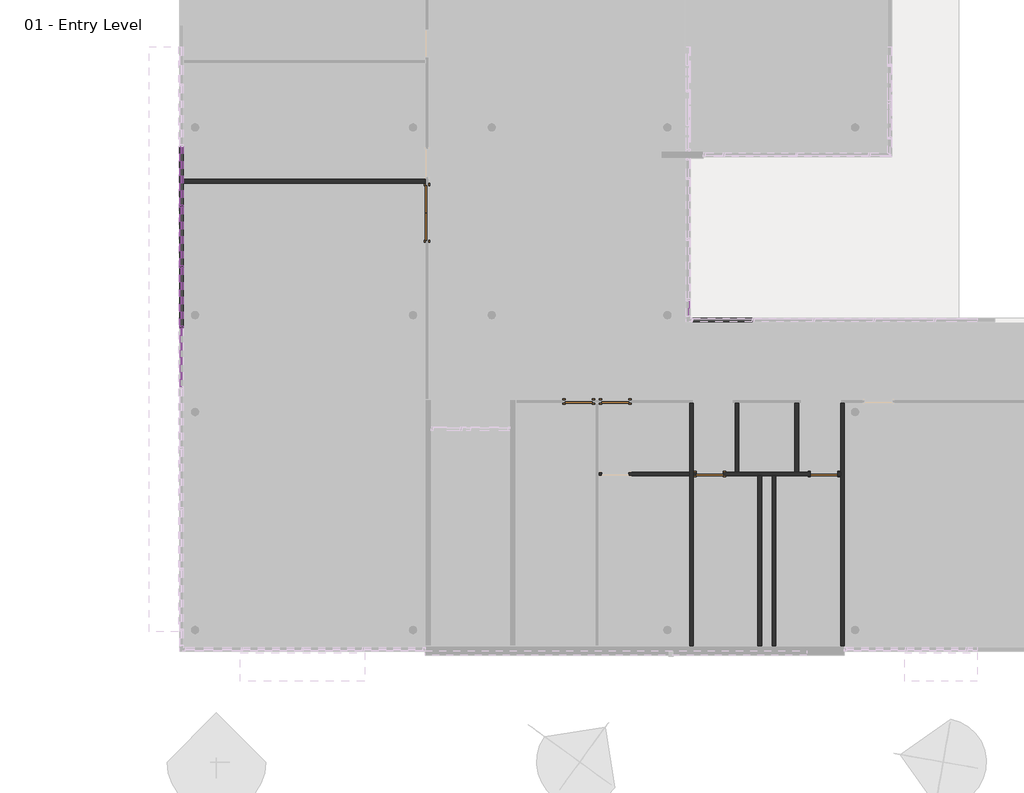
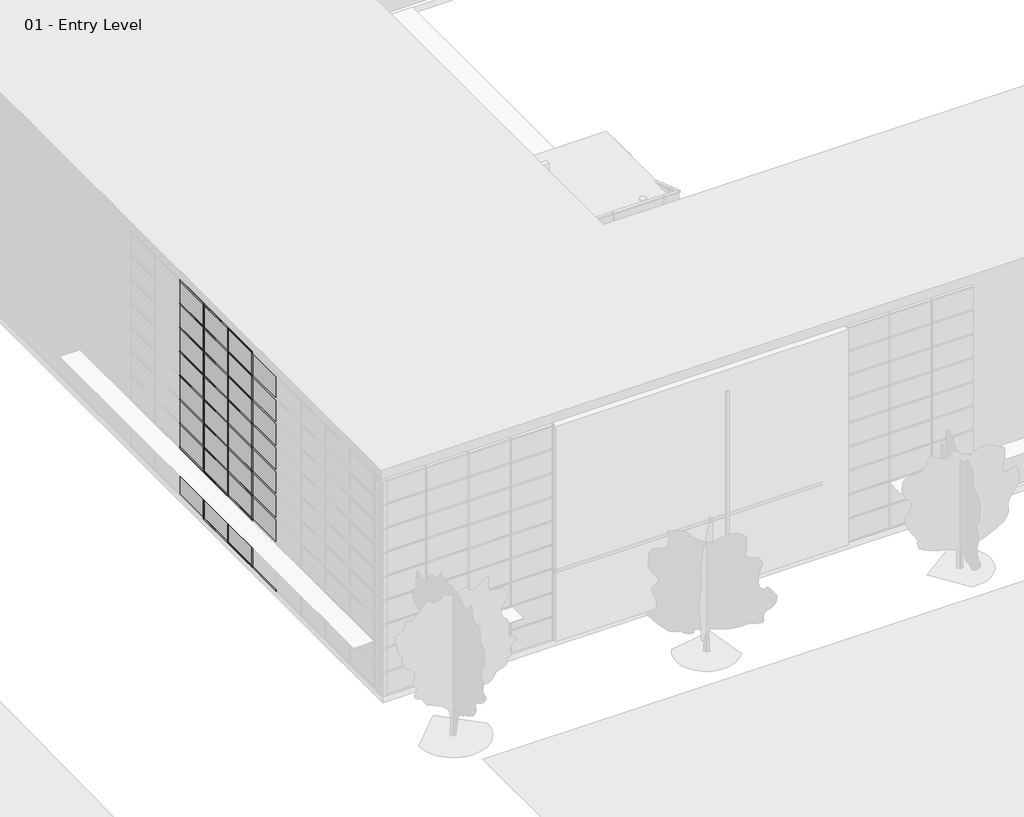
# One storey, part 8 of 34: 63 members, 43 plates, 8 walls, 5 doors.
"""IFC4 building model written with IfcOpenShell, lengths in millimetres."""

from ifc_helpers import new_model, si_unit, origin, origin_with_axes, place, context, project, spatial, polyline, outline, extrude, faceted_brep, transform, mapped, element, save
from components import door_2ec079c3, door_a1797ceb, door_a3eb833a, member_863be36e, member_2b49869a, member_391b434c, member_9e90ae50, member_274b5bb4, member_3d213ca6, member_ba732fc4, system_panel_glazed_1b9d6098, system_panel_glazed_70da479d, system_panel_glazed_4b84483b, system_panel_glazed_9dcaf0c5, system_panel_solid_b376696c, system_panel_solid_77e8b053

model = new_model("IFC4")

# Units and contexts
model_context = context("Model", 3, world=origin())
ifc_project = project(units=[si_unit("LENGTHUNIT", "METRE", prefix="MILLI")], contexts=[model_context])

# Site, building, storey
site = spatial("IfcSite", under=ifc_project)
building = spatial("IfcBuilding", under=site)
storey = spatial("IfcBuildingStorey", under=building, Name="01 - Entry Level", Elevation=0.0)

# Doors
placement = place(None, origin())
door_shape = door_2ec079c3(model_context)
element("IfcDoor", 1, ObjectType="Double-Flush : 72\" x 84\"", at=placement, inside=storey, context=model_context, shape_type="MappedRepresentation", body=[
    mapped(door_shape, transform((8421.0207476, 14595.4, 0.0), x_axis=(0.0, 1.0, 0.0), y_axis=(-1.0, 0.0, 0.0), z_axis=(0.0, 0.0, 1.0))),
])
door_2_shape = door_a1797ceb(model_context)
element("IfcDoor", 2, ObjectType="Single-Flush : 36\" x 84\"", at=placement, inside=storey, context=model_context, shape_type="MappedRepresentation", body=[
    mapped(door_2_shape, transform((14732.9207476, 8270.8, 0.0), x_axis=(-1.0, 0.0, 0.0), y_axis=(0.0, -1.0, 0.0), z_axis=(0.0, 0.0, 1.0))),
])
element("IfcDoor", 3, ObjectType="Single-Flush : 36\" x 84\"", at=placement, inside=storey, context=model_context, shape_type="MappedRepresentation", body=[
    mapped(door_2_shape, transform((17907.9207476, 5832.4, 0.0), x_axis=(-1.0, 0.0, 0.0), y_axis=(0.0, -1.0, 0.0), z_axis=(0.0, 0.0, 1.0))),
])
door_3_shape = door_a3eb833a(model_context)
element("IfcDoor", 4, ObjectType="Single-Flush : 36\" x 84\"", at=placement, inside=storey, context=model_context, shape_type="MappedRepresentation", body=[
    mapped(door_3_shape, transform((13513.7207476, 8270.8, 0.0), x_axis=(1.0, 0.0, 0.0), y_axis=(0.0, 1.0, 0.0), z_axis=(0.0, 0.0, 1.0))),
])
element("IfcDoor", 5, ObjectType="Single-Flush : 36\" x 84\"", at=placement, inside=storey, context=model_context, shape_type="MappedRepresentation", body=[
    mapped(door_3_shape, transform((21743.3207476, 5832.4, 0.0), x_axis=(1.0, 0.0, 0.0), y_axis=(0.0, 1.0, 0.0), z_axis=(0.0, 0.0, 1.0))),
])

# Members
member_shape = member_863be36e(model_context)
element("IfcMember", 6, ObjectType="L Corner Mullion : 5\" x 5\" Corner", at=placement, inside=storey, context=model_context, shape_type="MappedRepresentation", body=[
    mapped(member_shape, transform((17184.0207476, 11001.3, 10972.8), x_axis=(0.0, -1.0, 0.0), y_axis=(1.0, 0.0, 0.0), z_axis=(0.0, 0.0, 1.0))),
])
element("IfcMember", 7, ObjectType="L Corner Mullion : 5\" x 5\" Corner", at=placement, inside=storey, context=model_context, shape_type="MappedRepresentation", body=[
    mapped(member_shape, transform((17184.0207476, 11001.3, 6096.0), x_axis=(-1.0, 0.0, 0.0), y_axis=(0.0, 1.0, 0.0), z_axis=(0.0, 0.0, -1.0))),
])
member_2_shape = member_2b49869a(model_context)
element("IfcMember", 8, ObjectType="Rectangular Mullion : 2.5\" x 5\" rectangular", at=placement, inside=storey, context=model_context, shape_type="MappedRepresentation", body=[
    mapped(member_2_shape, transform((178.7207476, 14824.0, 9753.6), x_axis=(0.0, -1.0, 0.0), y_axis=(-1.0, 0.0, 0.0), z_axis=(0.0, 0.0, -1.0))),
])
element("IfcMember", 9, ObjectType="Rectangular Mullion : 2.5\" x 5\" rectangular", at=placement, inside=storey, context=model_context, shape_type="MappedRepresentation", body=[
    mapped(member_2_shape, transform((178.7207476, 12792.0, 9753.6), x_axis=(0.0, -1.0, 0.0), y_axis=(-1.0, 0.0, 0.0), z_axis=(0.0, 0.0, -1.0))),
])
element("IfcMember", 10, ObjectType="Rectangular Mullion : 2.5\" x 5\" rectangular", at=placement, inside=storey, context=model_context, shape_type="MappedRepresentation", body=[
    mapped(member_2_shape, transform((178.7207476, 10760.0, 9753.6), x_axis=(0.0, -1.0, 0.0), y_axis=(-1.0, 0.0, 0.0), z_axis=(0.0, 0.0, -1.0))),
])
member_3_shape = member_391b434c(model_context)
element("IfcMember", 11, ObjectType="Rectangular Mullion : 2.5\" x 5\" rectangular", at=placement, inside=storey, context=model_context, shape_type="MappedRepresentation", body=[
    mapped(member_3_shape, transform((178.7207476, 14855.75, 10972.8), x_axis=(0.0, 0.0, 1.0), y_axis=(-1.0, 0.0, 0.0), z_axis=(0.0, -1.0, 0.0))),
])
element("IfcMember", 12, ObjectType="Rectangular Mullion : 2.5\" x 5\" rectangular", at=placement, inside=storey, context=model_context, shape_type="MappedRepresentation", body=[
    mapped(member_3_shape, transform((178.7207476, 12823.75, 10972.8), x_axis=(0.0, 0.0, 1.0), y_axis=(-1.0, 0.0, 0.0), z_axis=(0.0, -1.0, 0.0))),
])
element("IfcMember", 13, ObjectType="Rectangular Mullion : 2.5\" x 5\" rectangular", at=placement, inside=storey, context=model_context, shape_type="MappedRepresentation", body=[
    mapped(member_3_shape, transform((178.7207476, 10791.75, 10972.8), x_axis=(0.0, 0.0, 1.0), y_axis=(-1.0, 0.0, 0.0), z_axis=(0.0, -1.0, 0.0))),
])
element("IfcMember", 14, ObjectType="Rectangular Mullion : 2.5\" x 5\" rectangular", at=placement, inside=storey, context=model_context, shape_type="MappedRepresentation", body=[
    mapped(member_3_shape, transform((178.7207476, 14792.25, 0.0), x_axis=(0.0, 0.0, -1.0), y_axis=(-1.0, 0.0, 0.0), z_axis=(0.0, 1.0, 0.0))),
])
element("IfcMember", 15, ObjectType="Rectangular Mullion : 2.5\" x 5\" rectangular", at=placement, inside=storey, context=model_context, shape_type="MappedRepresentation", body=[
    mapped(member_3_shape, transform((178.7207476, 12760.25, 0.0), x_axis=(0.0, 0.0, -1.0), y_axis=(-1.0, 0.0, 0.0), z_axis=(0.0, 1.0, 0.0))),
])
element("IfcMember", 16, ObjectType="Rectangular Mullion : 2.5\" x 5\" rectangular", at=placement, inside=storey, context=model_context, shape_type="MappedRepresentation", body=[
    mapped(member_3_shape, transform((178.7207476, 10728.25, 0.0), x_axis=(0.0, 0.0, -1.0), y_axis=(-1.0, 0.0, 0.0), z_axis=(0.0, 1.0, 0.0))),
])
member_4_shape = member_9e90ae50(model_context)
element("IfcMember", 17, ObjectType="Rectangular Mullion : 2.5\" x 5\" rectangular", at=placement, inside=storey, context=model_context, shape_type="MappedRepresentation", body=[
    mapped(member_4_shape, transform((178.7207476, 14855.75, 1219.2), x_axis=(0.0, 0.0, 1.0), y_axis=(-1.0, 0.0, 0.0), z_axis=(0.0, -1.0, 0.0))),
])
element("IfcMember", 18, ObjectType="Rectangular Mullion : 2.5\" x 5\" rectangular", at=placement, inside=storey, context=model_context, shape_type="MappedRepresentation", body=[
    mapped(member_4_shape, transform((178.7207476, 12823.75, 1219.2), x_axis=(0.0, 0.0, 1.0), y_axis=(-1.0, 0.0, 0.0), z_axis=(0.0, -1.0, 0.0))),
])
element("IfcMember", 19, ObjectType="Rectangular Mullion : 2.5\" x 5\" rectangular", at=placement, inside=storey, context=model_context, shape_type="MappedRepresentation", body=[
    mapped(member_4_shape, transform((178.7207476, 10791.75, 1219.2), x_axis=(0.0, 0.0, 1.0), y_axis=(-1.0, 0.0, 0.0), z_axis=(0.0, -1.0, 0.0))),
])
element("IfcMember", 20, ObjectType="Rectangular Mullion : 2.5\" x 5\" rectangular", at=placement, inside=storey, context=model_context, shape_type="MappedRepresentation", body=[
    mapped(member_4_shape, transform((178.7207476, 14855.75, 2438.4), x_axis=(0.0, 0.0, 1.0), y_axis=(-1.0, 0.0, 0.0), z_axis=(0.0, -1.0, 0.0))),
])
element("IfcMember", 21, ObjectType="Rectangular Mullion : 2.5\" x 5\" rectangular", at=placement, inside=storey, context=model_context, shape_type="MappedRepresentation", body=[
    mapped(member_4_shape, transform((178.7207476, 12823.75, 2438.4), x_axis=(0.0, 0.0, 1.0), y_axis=(-1.0, 0.0, 0.0), z_axis=(0.0, -1.0, 0.0))),
])
element("IfcMember", 22, ObjectType="Rectangular Mullion : 2.5\" x 5\" rectangular", at=placement, inside=storey, context=model_context, shape_type="MappedRepresentation", body=[
    mapped(member_4_shape, transform((178.7207476, 10791.75, 2438.4), x_axis=(0.0, 0.0, 1.0), y_axis=(-1.0, 0.0, 0.0), z_axis=(0.0, -1.0, 0.0))),
])
element("IfcMember", 23, ObjectType="Rectangular Mullion : 2.5\" x 5\" rectangular", at=placement, inside=storey, context=model_context, shape_type="MappedRepresentation", body=[
    mapped(member_4_shape, transform((178.7207476, 14855.75, 3657.6), x_axis=(0.0, 0.0, 1.0), y_axis=(-1.0, 0.0, 0.0), z_axis=(0.0, -1.0, 0.0))),
])
element("IfcMember", 24, ObjectType="Rectangular Mullion : 2.5\" x 5\" rectangular", at=placement, inside=storey, context=model_context, shape_type="MappedRepresentation", body=[
    mapped(member_4_shape, transform((178.7207476, 12823.75, 3657.6), x_axis=(0.0, 0.0, 1.0), y_axis=(-1.0, 0.0, 0.0), z_axis=(0.0, -1.0, 0.0))),
])
element("IfcMember", 25, ObjectType="Rectangular Mullion : 2.5\" x 5\" rectangular", at=placement, inside=storey, context=model_context, shape_type="MappedRepresentation", body=[
    mapped(member_4_shape, transform((178.7207476, 10791.75, 3657.6), x_axis=(0.0, 0.0, 1.0), y_axis=(-1.0, 0.0, 0.0), z_axis=(0.0, -1.0, 0.0))),
])
element("IfcMember", 26, ObjectType="Rectangular Mullion : 2.5\" x 5\" rectangular", at=placement, inside=storey, context=model_context, shape_type="MappedRepresentation", body=[
    mapped(member_4_shape, transform((178.7207476, 14855.75, 4876.8), x_axis=(0.0, 0.0, 1.0), y_axis=(-1.0, 0.0, 0.0), z_axis=(0.0, -1.0, 0.0))),
])
element("IfcMember", 27, ObjectType="Rectangular Mullion : 2.5\" x 5\" rectangular", at=placement, inside=storey, context=model_context, shape_type="MappedRepresentation", body=[
    mapped(member_4_shape, transform((178.7207476, 12823.75, 4876.8), x_axis=(0.0, 0.0, 1.0), y_axis=(-1.0, 0.0, 0.0), z_axis=(0.0, -1.0, 0.0))),
])
element("IfcMember", 28, ObjectType="Rectangular Mullion : 2.5\" x 5\" rectangular", at=placement, inside=storey, context=model_context, shape_type="MappedRepresentation", body=[
    mapped(member_4_shape, transform((178.7207476, 10791.75, 4876.8), x_axis=(0.0, 0.0, 1.0), y_axis=(-1.0, 0.0, 0.0), z_axis=(0.0, -1.0, 0.0))),
])
element("IfcMember", 29, ObjectType="Rectangular Mullion : 2.5\" x 5\" rectangular", at=placement, inside=storey, context=model_context, shape_type="MappedRepresentation", body=[
    mapped(member_4_shape, transform((178.7207476, 14855.75, 6096.0), x_axis=(0.0, 0.0, 1.0), y_axis=(-1.0, 0.0, 0.0), z_axis=(0.0, -1.0, 0.0))),
])
element("IfcMember", 30, ObjectType="Rectangular Mullion : 2.5\" x 5\" rectangular", at=placement, inside=storey, context=model_context, shape_type="MappedRepresentation", body=[
    mapped(member_4_shape, transform((178.7207476, 12823.75, 6096.0), x_axis=(0.0, 0.0, 1.0), y_axis=(-1.0, 0.0, 0.0), z_axis=(0.0, -1.0, 0.0))),
])
element("IfcMember", 31, ObjectType="Rectangular Mullion : 2.5\" x 5\" rectangular", at=placement, inside=storey, context=model_context, shape_type="MappedRepresentation", body=[
    mapped(member_4_shape, transform((178.7207476, 10791.75, 6096.0), x_axis=(0.0, 0.0, 1.0), y_axis=(-1.0, 0.0, 0.0), z_axis=(0.0, -1.0, 0.0))),
])
element("IfcMember", 32, ObjectType="Rectangular Mullion : 2.5\" x 5\" rectangular", at=placement, inside=storey, context=model_context, shape_type="MappedRepresentation", body=[
    mapped(member_4_shape, transform((178.7207476, 14855.75, 7315.2), x_axis=(0.0, 0.0, 1.0), y_axis=(-1.0, 0.0, 0.0), z_axis=(0.0, -1.0, 0.0))),
])
element("IfcMember", 33, ObjectType="Rectangular Mullion : 2.5\" x 5\" rectangular", at=placement, inside=storey, context=model_context, shape_type="MappedRepresentation", body=[
    mapped(member_4_shape, transform((178.7207476, 12823.75, 7315.2), x_axis=(0.0, 0.0, 1.0), y_axis=(-1.0, 0.0, 0.0), z_axis=(0.0, -1.0, 0.0))),
])
element("IfcMember", 34, ObjectType="Rectangular Mullion : 2.5\" x 5\" rectangular", at=placement, inside=storey, context=model_context, shape_type="MappedRepresentation", body=[
    mapped(member_4_shape, transform((178.7207476, 10791.75, 7315.2), x_axis=(0.0, 0.0, 1.0), y_axis=(-1.0, 0.0, 0.0), z_axis=(0.0, -1.0, 0.0))),
])
element("IfcMember", 35, ObjectType="Rectangular Mullion : 2.5\" x 5\" rectangular", at=placement, inside=storey, context=model_context, shape_type="MappedRepresentation", body=[
    mapped(member_4_shape, transform((178.7207476, 14855.75, 8534.4), x_axis=(0.0, 0.0, 1.0), y_axis=(-1.0, 0.0, 0.0), z_axis=(0.0, -1.0, 0.0))),
])
element("IfcMember", 36, ObjectType="Rectangular Mullion : 2.5\" x 5\" rectangular", at=placement, inside=storey, context=model_context, shape_type="MappedRepresentation", body=[
    mapped(member_4_shape, transform((178.7207476, 12823.75, 8534.4), x_axis=(0.0, 0.0, 1.0), y_axis=(-1.0, 0.0, 0.0), z_axis=(0.0, -1.0, 0.0))),
])
element("IfcMember", 37, ObjectType="Rectangular Mullion : 2.5\" x 5\" rectangular", at=placement, inside=storey, context=model_context, shape_type="MappedRepresentation", body=[
    mapped(member_4_shape, transform((178.7207476, 10791.75, 8534.4), x_axis=(0.0, 0.0, 1.0), y_axis=(-1.0, 0.0, 0.0), z_axis=(0.0, -1.0, 0.0))),
])
element("IfcMember", 38, ObjectType="Rectangular Mullion : 2.5\" x 5\" rectangular", at=placement, inside=storey, context=model_context, shape_type="MappedRepresentation", body=[
    mapped(member_4_shape, transform((178.7207476, 14855.75, 9753.6), x_axis=(0.0, 0.0, 1.0), y_axis=(-1.0, 0.0, 0.0), z_axis=(0.0, -1.0, 0.0))),
])
element("IfcMember", 39, ObjectType="Rectangular Mullion : 2.5\" x 5\" rectangular", at=placement, inside=storey, context=model_context, shape_type="MappedRepresentation", body=[
    mapped(member_4_shape, transform((178.7207476, 12823.75, 9753.6), x_axis=(0.0, 0.0, 1.0), y_axis=(-1.0, 0.0, 0.0), z_axis=(0.0, -1.0, 0.0))),
])
element("IfcMember", 40, ObjectType="Rectangular Mullion : 2.5\" x 5\" rectangular", at=placement, inside=storey, context=model_context, shape_type="MappedRepresentation", body=[
    mapped(member_4_shape, transform((178.7207476, 10791.75, 9753.6), x_axis=(0.0, 0.0, 1.0), y_axis=(-1.0, 0.0, 0.0), z_axis=(0.0, -1.0, 0.0))),
])
element("IfcMember", 41, ObjectType="Rectangular Mullion : 2.5\" x 5\" rectangular", at=placement, inside=storey, context=model_context, shape_type="MappedRepresentation", body=[
    mapped(member_2_shape, transform((178.7207476, 14824.0, 0.0), x_axis=(0.0, -1.0, 0.0), y_axis=(-1.0, 0.0, 0.0), z_axis=(0.0, 0.0, -1.0))),
])
element("IfcMember", 42, ObjectType="Rectangular Mullion : 2.5\" x 5\" rectangular", at=placement, inside=storey, context=model_context, shape_type="MappedRepresentation", body=[
    mapped(member_2_shape, transform((178.7207476, 12792.0, 0.0), x_axis=(0.0, -1.0, 0.0), y_axis=(-1.0, 0.0, 0.0), z_axis=(0.0, 0.0, -1.0))),
])
element("IfcMember", 43, ObjectType="Rectangular Mullion : 2.5\" x 5\" rectangular", at=placement, inside=storey, context=model_context, shape_type="MappedRepresentation", body=[
    mapped(member_2_shape, transform((178.7207476, 10760.0, 0.0), x_axis=(0.0, -1.0, 0.0), y_axis=(-1.0, 0.0, 0.0), z_axis=(0.0, 0.0, -1.0))),
])
element("IfcMember", 44, ObjectType="Rectangular Mullion : 2.5\" x 5\" rectangular", at=placement, inside=storey, context=model_context, shape_type="MappedRepresentation", body=[
    mapped(member_2_shape, transform((178.7207476, 14824.0, 1219.2), x_axis=(0.0, -1.0, 0.0), y_axis=(-1.0, 0.0, 0.0), z_axis=(0.0, 0.0, -1.0))),
])
element("IfcMember", 45, ObjectType="Rectangular Mullion : 2.5\" x 5\" rectangular", at=placement, inside=storey, context=model_context, shape_type="MappedRepresentation", body=[
    mapped(member_2_shape, transform((178.7207476, 12792.0, 1219.2), x_axis=(0.0, -1.0, 0.0), y_axis=(-1.0, 0.0, 0.0), z_axis=(0.0, 0.0, -1.0))),
])
element("IfcMember", 46, ObjectType="Rectangular Mullion : 2.5\" x 5\" rectangular", at=placement, inside=storey, context=model_context, shape_type="MappedRepresentation", body=[
    mapped(member_2_shape, transform((178.7207476, 10760.0, 1219.2), x_axis=(0.0, -1.0, 0.0), y_axis=(-1.0, 0.0, 0.0), z_axis=(0.0, 0.0, -1.0))),
])
element("IfcMember", 47, ObjectType="Rectangular Mullion : 2.5\" x 5\" rectangular", at=placement, inside=storey, context=model_context, shape_type="MappedRepresentation", body=[
    mapped(member_2_shape, transform((178.7207476, 14824.0, 2438.4), x_axis=(0.0, -1.0, 0.0), y_axis=(-1.0, 0.0, 0.0), z_axis=(0.0, 0.0, -1.0))),
])
element("IfcMember", 48, ObjectType="Rectangular Mullion : 2.5\" x 5\" rectangular", at=placement, inside=storey, context=model_context, shape_type="MappedRepresentation", body=[
    mapped(member_2_shape, transform((178.7207476, 12792.0, 2438.4), x_axis=(0.0, -1.0, 0.0), y_axis=(-1.0, 0.0, 0.0), z_axis=(0.0, 0.0, -1.0))),
])
element("IfcMember", 49, ObjectType="Rectangular Mullion : 2.5\" x 5\" rectangular", at=placement, inside=storey, context=model_context, shape_type="MappedRepresentation", body=[
    mapped(member_2_shape, transform((178.7207476, 10760.0, 2438.4), x_axis=(0.0, -1.0, 0.0), y_axis=(-1.0, 0.0, 0.0), z_axis=(0.0, 0.0, -1.0))),
])
element("IfcMember", 50, ObjectType="Rectangular Mullion : 2.5\" x 5\" rectangular", at=placement, inside=storey, context=model_context, shape_type="MappedRepresentation", body=[
    mapped(member_2_shape, transform((178.7207476, 14824.0, 3657.6), x_axis=(0.0, -1.0, 0.0), y_axis=(-1.0, 0.0, 0.0), z_axis=(0.0, 0.0, -1.0))),
])
element("IfcMember", 51, ObjectType="Rectangular Mullion : 2.5\" x 5\" rectangular", at=placement, inside=storey, context=model_context, shape_type="MappedRepresentation", body=[
    mapped(member_2_shape, transform((178.7207476, 12792.0, 3657.6), x_axis=(0.0, -1.0, 0.0), y_axis=(-1.0, 0.0, 0.0), z_axis=(0.0, 0.0, -1.0))),
])
element("IfcMember", 52, ObjectType="Rectangular Mullion : 2.5\" x 5\" rectangular", at=placement, inside=storey, context=model_context, shape_type="MappedRepresentation", body=[
    mapped(member_2_shape, transform((178.7207476, 10760.0, 3657.6), x_axis=(0.0, -1.0, 0.0), y_axis=(-1.0, 0.0, 0.0), z_axis=(0.0, 0.0, -1.0))),
])
element("IfcMember", 53, ObjectType="Rectangular Mullion : 2.5\" x 5\" rectangular", at=placement, inside=storey, context=model_context, shape_type="MappedRepresentation", body=[
    mapped(member_2_shape, transform((178.7207476, 14824.0, 4876.8), x_axis=(0.0, -1.0, 0.0), y_axis=(-1.0, 0.0, 0.0), z_axis=(0.0, 0.0, -1.0))),
])
element("IfcMember", 54, ObjectType="Rectangular Mullion : 2.5\" x 5\" rectangular", at=placement, inside=storey, context=model_context, shape_type="MappedRepresentation", body=[
    mapped(member_2_shape, transform((178.7207476, 12792.0, 4876.8), x_axis=(0.0, -1.0, 0.0), y_axis=(-1.0, 0.0, 0.0), z_axis=(0.0, 0.0, -1.0))),
])
element("IfcMember", 55, ObjectType="Rectangular Mullion : 2.5\" x 5\" rectangular", at=placement, inside=storey, context=model_context, shape_type="MappedRepresentation", body=[
    mapped(member_2_shape, transform((178.7207476, 10760.0, 4876.8), x_axis=(0.0, -1.0, 0.0), y_axis=(-1.0, 0.0, 0.0), z_axis=(0.0, 0.0, -1.0))),
])
element("IfcMember", 56, ObjectType="Rectangular Mullion : 2.5\" x 5\" rectangular", at=placement, inside=storey, context=model_context, shape_type="MappedRepresentation", body=[
    mapped(member_2_shape, transform((178.7207476, 14824.0, 6096.0), x_axis=(0.0, -1.0, 0.0), y_axis=(-1.0, 0.0, 0.0), z_axis=(0.0, 0.0, -1.0))),
])
element("IfcMember", 57, ObjectType="Rectangular Mullion : 2.5\" x 5\" rectangular", at=placement, inside=storey, context=model_context, shape_type="MappedRepresentation", body=[
    mapped(member_2_shape, transform((178.7207476, 12792.0, 6096.0), x_axis=(0.0, -1.0, 0.0), y_axis=(-1.0, 0.0, 0.0), z_axis=(0.0, 0.0, -1.0))),
])
element("IfcMember", 58, ObjectType="Rectangular Mullion : 2.5\" x 5\" rectangular", at=placement, inside=storey, context=model_context, shape_type="MappedRepresentation", body=[
    mapped(member_2_shape, transform((178.7207476, 10760.0, 6096.0), x_axis=(0.0, -1.0, 0.0), y_axis=(-1.0, 0.0, 0.0), z_axis=(0.0, 0.0, -1.0))),
])
element("IfcMember", 59, ObjectType="Rectangular Mullion : 2.5\" x 5\" rectangular", at=placement, inside=storey, context=model_context, shape_type="MappedRepresentation", body=[
    mapped(member_2_shape, transform((178.7207476, 14824.0, 7315.2), x_axis=(0.0, -1.0, 0.0), y_axis=(-1.0, 0.0, 0.0), z_axis=(0.0, 0.0, -1.0))),
])
element("IfcMember", 60, ObjectType="Rectangular Mullion : 2.5\" x 5\" rectangular", at=placement, inside=storey, context=model_context, shape_type="MappedRepresentation", body=[
    mapped(member_2_shape, transform((178.7207476, 12792.0, 7315.2), x_axis=(0.0, -1.0, 0.0), y_axis=(-1.0, 0.0, 0.0), z_axis=(0.0, 0.0, -1.0))),
])
element("IfcMember", 61, ObjectType="Rectangular Mullion : 2.5\" x 5\" rectangular", at=placement, inside=storey, context=model_context, shape_type="MappedRepresentation", body=[
    mapped(member_2_shape, transform((178.7207476, 10760.0, 7315.2), x_axis=(0.0, -1.0, 0.0), y_axis=(-1.0, 0.0, 0.0), z_axis=(0.0, 0.0, -1.0))),
])
element("IfcMember", 62, ObjectType="Rectangular Mullion : 2.5\" x 5\" rectangular", at=placement, inside=storey, context=model_context, shape_type="MappedRepresentation", body=[
    mapped(member_2_shape, transform((178.7207476, 14824.0, 8534.4), x_axis=(0.0, -1.0, 0.0), y_axis=(-1.0, 0.0, 0.0), z_axis=(0.0, 0.0, -1.0))),
])
element("IfcMember", 63, ObjectType="Rectangular Mullion : 2.5\" x 5\" rectangular", at=placement, inside=storey, context=model_context, shape_type="MappedRepresentation", body=[
    mapped(member_2_shape, transform((178.7207476, 12792.0, 8534.4), x_axis=(0.0, -1.0, 0.0), y_axis=(-1.0, 0.0, 0.0), z_axis=(0.0, 0.0, -1.0))),
])
element("IfcMember", 64, ObjectType="Rectangular Mullion : 2.5\" x 5\" rectangular", at=placement, inside=storey, context=model_context, shape_type="MappedRepresentation", body=[
    mapped(member_2_shape, transform((178.7207476, 10760.0, 8534.4), x_axis=(0.0, -1.0, 0.0), y_axis=(-1.0, 0.0, 0.0), z_axis=(0.0, 0.0, -1.0))),
])
member_5_shape = member_274b5bb4(model_context)
element("IfcMember", 65, ObjectType="Rectangular Mullion : 2.5\" x 5\" rectangular", at=placement, inside=storey, context=model_context, shape_type="MappedRepresentation", body=[
    mapped(member_5_shape, transform((17184.0207476, 11128.3, 0.0), x_axis=(0.0, 0.0, -1.0), y_axis=(1.0, 0.0, 0.0), z_axis=(0.0, -1.0, 0.0))),
])
member_6_shape = member_3d213ca6(model_context)
element("IfcMember", 66, ObjectType="Rectangular Mullion : 2.5\" x 5\" rectangular", at=placement, inside=storey, context=model_context, shape_type="MappedRepresentation", body=[
    mapped(member_6_shape, transform((17336.4207476, 11001.3, 1219.2), x_axis=(0.0, 0.0, 1.0), y_axis=(0.0, 1.0, 0.0), z_axis=(-1.0, 0.0, 0.0))),
])
element("IfcMember", 67, ObjectType="Rectangular Mullion : 2.5\" x 5\" rectangular", at=placement, inside=storey, context=model_context, shape_type="MappedRepresentation", body=[
    mapped(member_6_shape, transform((17336.4207476, 11001.3, 2438.4), x_axis=(0.0, 0.0, 1.0), y_axis=(0.0, 1.0, 0.0), z_axis=(-1.0, 0.0, 0.0))),
])
member_7_shape = member_ba732fc4(model_context)
element("IfcMember", 68, ObjectType="Rectangular Mullion : 2.5\" x 5\" rectangular", at=placement, inside=storey, context=model_context, shape_type="MappedRepresentation", body=[
    mapped(member_7_shape, transform((17311.0207476, 11001.3, 10972.8), x_axis=(0.0, 0.0, 1.0), y_axis=(0.0, 1.0, 0.0), z_axis=(-1.0, 0.0, 0.0))),
])

# Plates
system_panel_glazed_shape = system_panel_glazed_1b9d6098(model_context)
element("IfcPlate", 69, ObjectType="System Panel : Glazed", at=placement, inside=storey, context=model_context, shape_type="MappedRepresentation", body=[
    mapped(system_panel_glazed_shape, transform((178.7207476, 15840.0, 63.5), x_axis=(0.0, -1.0, 0.0), y_axis=(1.0, 0.0, 0.0), z_axis=(0.0, 0.0, 1.0))),
])
element("IfcPlate", 70, ObjectType="System Panel : Glazed", at=placement, inside=storey, context=model_context, shape_type="MappedRepresentation", body=[
    mapped(system_panel_glazed_shape, transform((178.7207476, 13808.0, 63.5), x_axis=(0.0, -1.0, 0.0), y_axis=(1.0, 0.0, 0.0), z_axis=(0.0, 0.0, 1.0))),
])
element("IfcPlate", 71, ObjectType="System Panel : Glazed", at=placement, inside=storey, context=model_context, shape_type="MappedRepresentation", body=[
    mapped(system_panel_glazed_shape, transform((178.7207476, 11776.0, 63.5), x_axis=(0.0, -1.0, 0.0), y_axis=(1.0, 0.0, 0.0), z_axis=(0.0, 0.0, 1.0))),
])
system_panel_glazed_2_shape = system_panel_glazed_70da479d(model_context)
element("IfcPlate", 72, ObjectType="System Panel : Glazed", at=placement, inside=storey, context=model_context, shape_type="MappedRepresentation", body=[
    mapped(system_panel_glazed_2_shape, transform((178.7207476, 15840.0, 1250.95), x_axis=(0.0, -1.0, 0.0), y_axis=(1.0, 0.0, 0.0), z_axis=(0.0, 0.0, 1.0))),
])
element("IfcPlate", 73, ObjectType="System Panel : Glazed", at=placement, inside=storey, context=model_context, shape_type="MappedRepresentation", body=[
    mapped(system_panel_glazed_2_shape, transform((178.7207476, 13808.0, 1250.95), x_axis=(0.0, -1.0, 0.0), y_axis=(1.0, 0.0, 0.0), z_axis=(0.0, 0.0, 1.0))),
])
element("IfcPlate", 74, ObjectType="System Panel : Glazed", at=placement, inside=storey, context=model_context, shape_type="MappedRepresentation", body=[
    mapped(system_panel_glazed_2_shape, transform((178.7207476, 11776.0, 1250.95), x_axis=(0.0, -1.0, 0.0), y_axis=(1.0, 0.0, 0.0), z_axis=(0.0, 0.0, 1.0))),
])
element("IfcPlate", 75, ObjectType="System Panel : Glazed", at=placement, inside=storey, context=model_context, shape_type="MappedRepresentation", body=[
    mapped(system_panel_glazed_2_shape, transform((178.7207476, 15840.0, 3689.35), x_axis=(0.0, -1.0, 0.0), y_axis=(1.0, 0.0, 0.0), z_axis=(0.0, 0.0, 1.0))),
])
element("IfcPlate", 76, ObjectType="System Panel : Glazed", at=placement, inside=storey, context=model_context, shape_type="MappedRepresentation", body=[
    mapped(system_panel_glazed_2_shape, transform((178.7207476, 13808.0, 3689.35), x_axis=(0.0, -1.0, 0.0), y_axis=(1.0, 0.0, 0.0), z_axis=(0.0, 0.0, 1.0))),
])
element("IfcPlate", 77, ObjectType="System Panel : Glazed", at=placement, inside=storey, context=model_context, shape_type="MappedRepresentation", body=[
    mapped(system_panel_glazed_2_shape, transform((178.7207476, 11776.0, 3689.35), x_axis=(0.0, -1.0, 0.0), y_axis=(1.0, 0.0, 0.0), z_axis=(0.0, 0.0, 1.0))),
])
element("IfcPlate", 78, ObjectType="System Panel : Glazed", at=placement, inside=storey, context=model_context, shape_type="MappedRepresentation", body=[
    mapped(system_panel_glazed_2_shape, transform((178.7207476, 9744.0, 3689.35), x_axis=(0.0, -1.0, 0.0), y_axis=(1.0, 0.0, 0.0), z_axis=(0.0, 0.0, 1.0))),
])
element("IfcPlate", 79, ObjectType="System Panel : Glazed", at=placement, inside=storey, context=model_context, shape_type="MappedRepresentation", body=[
    mapped(system_panel_glazed_2_shape, transform((178.7207476, 15840.0, 4908.55), x_axis=(0.0, -1.0, 0.0), y_axis=(1.0, 0.0, 0.0), z_axis=(0.0, 0.0, 1.0))),
])
element("IfcPlate", 80, ObjectType="System Panel : Glazed", at=placement, inside=storey, context=model_context, shape_type="MappedRepresentation", body=[
    mapped(system_panel_glazed_2_shape, transform((178.7207476, 13808.0, 4908.55), x_axis=(0.0, -1.0, 0.0), y_axis=(1.0, 0.0, 0.0), z_axis=(0.0, 0.0, 1.0))),
])
element("IfcPlate", 81, ObjectType="System Panel : Glazed", at=placement, inside=storey, context=model_context, shape_type="MappedRepresentation", body=[
    mapped(system_panel_glazed_2_shape, transform((178.7207476, 11776.0, 4908.55), x_axis=(0.0, -1.0, 0.0), y_axis=(1.0, 0.0, 0.0), z_axis=(0.0, 0.0, 1.0))),
])
element("IfcPlate", 82, ObjectType="System Panel : Glazed", at=placement, inside=storey, context=model_context, shape_type="MappedRepresentation", body=[
    mapped(system_panel_glazed_2_shape, transform((178.7207476, 9744.0, 4908.55), x_axis=(0.0, -1.0, 0.0), y_axis=(1.0, 0.0, 0.0), z_axis=(0.0, 0.0, 1.0))),
])
element("IfcPlate", 83, ObjectType="System Panel : Glazed", at=placement, inside=storey, context=model_context, shape_type="MappedRepresentation", body=[
    mapped(system_panel_glazed_2_shape, transform((178.7207476, 15840.0, 7346.95), x_axis=(0.0, -1.0, 0.0), y_axis=(1.0, 0.0, 0.0), z_axis=(0.0, 0.0, 1.0))),
])
element("IfcPlate", 84, ObjectType="System Panel : Glazed", at=placement, inside=storey, context=model_context, shape_type="MappedRepresentation", body=[
    mapped(system_panel_glazed_2_shape, transform((178.7207476, 13808.0, 7346.95), x_axis=(0.0, -1.0, 0.0), y_axis=(1.0, 0.0, 0.0), z_axis=(0.0, 0.0, 1.0))),
])
element("IfcPlate", 85, ObjectType="System Panel : Glazed", at=placement, inside=storey, context=model_context, shape_type="MappedRepresentation", body=[
    mapped(system_panel_glazed_2_shape, transform((178.7207476, 11776.0, 7346.95), x_axis=(0.0, -1.0, 0.0), y_axis=(1.0, 0.0, 0.0), z_axis=(0.0, 0.0, 1.0))),
])
element("IfcPlate", 86, ObjectType="System Panel : Glazed", at=placement, inside=storey, context=model_context, shape_type="MappedRepresentation", body=[
    mapped(system_panel_glazed_2_shape, transform((178.7207476, 9744.0, 7346.95), x_axis=(0.0, -1.0, 0.0), y_axis=(1.0, 0.0, 0.0), z_axis=(0.0, 0.0, 1.0))),
])
element("IfcPlate", 87, ObjectType="System Panel : Glazed", at=placement, inside=storey, context=model_context, shape_type="MappedRepresentation", body=[
    mapped(system_panel_glazed_2_shape, transform((178.7207476, 15840.0, 8566.15), x_axis=(0.0, -1.0, 0.0), y_axis=(1.0, 0.0, 0.0), z_axis=(0.0, 0.0, 1.0))),
])
element("IfcPlate", 88, ObjectType="System Panel : Glazed", at=placement, inside=storey, context=model_context, shape_type="MappedRepresentation", body=[
    mapped(system_panel_glazed_2_shape, transform((178.7207476, 13808.0, 8566.15), x_axis=(0.0, -1.0, 0.0), y_axis=(1.0, 0.0, 0.0), z_axis=(0.0, 0.0, 1.0))),
])
element("IfcPlate", 89, ObjectType="System Panel : Glazed", at=placement, inside=storey, context=model_context, shape_type="MappedRepresentation", body=[
    mapped(system_panel_glazed_2_shape, transform((178.7207476, 11776.0, 8566.15), x_axis=(0.0, -1.0, 0.0), y_axis=(1.0, 0.0, 0.0), z_axis=(0.0, 0.0, 1.0))),
])
element("IfcPlate", 90, ObjectType="System Panel : Glazed", at=placement, inside=storey, context=model_context, shape_type="MappedRepresentation", body=[
    mapped(system_panel_glazed_2_shape, transform((178.7207476, 9744.0, 8566.15), x_axis=(0.0, -1.0, 0.0), y_axis=(1.0, 0.0, 0.0), z_axis=(0.0, 0.0, 1.0))),
])
system_panel_glazed_3_shape = system_panel_glazed_4b84483b(model_context)
element("IfcPlate", 91, ObjectType="System Panel : Glazed", at=placement, inside=storey, context=model_context, shape_type="MappedRepresentation", body=[
    mapped(system_panel_glazed_3_shape, transform((17184.0207476, 11391.825, 63.5), x_axis=(0.0, 1.0, 0.0), y_axis=(-1.0, 0.0, 0.0), z_axis=(0.0, 0.0, 1.0))),
])
element("IfcPlate", 92, ObjectType="System Panel : Glazed", at=placement, inside=storey, context=model_context, shape_type="MappedRepresentation", body=[
    mapped(system_panel_glazed_3_shape, transform((17184.0207476, 11391.825, 9785.35), x_axis=(0.0, 1.0, 0.0), y_axis=(-1.0, 0.0, 0.0), z_axis=(0.0, 0.0, 1.0))),
])
system_panel_glazed_4_shape = system_panel_glazed_9dcaf0c5(model_context)
element("IfcPlate", 93, ObjectType="System Panel : Glazed", at=placement, inside=storey, context=model_context, shape_type="MappedRepresentation", body=[
    mapped(system_panel_glazed_4_shape, transform((17184.0207476, 11391.825, 1250.95), x_axis=(0.0, 1.0, 0.0), y_axis=(-1.0, 0.0, 0.0), z_axis=(0.0, 0.0, 1.0))),
])
element("IfcPlate", 94, ObjectType="System Panel : Glazed", at=placement, inside=storey, context=model_context, shape_type="MappedRepresentation", body=[
    mapped(system_panel_glazed_4_shape, transform((17184.0207476, 11391.825, 2470.15), x_axis=(0.0, 1.0, 0.0), y_axis=(-1.0, 0.0, 0.0), z_axis=(0.0, 0.0, 1.0))),
])
element("IfcPlate", 95, ObjectType="System Panel : Glazed", at=placement, inside=storey, context=model_context, shape_type="MappedRepresentation", body=[
    mapped(system_panel_glazed_4_shape, transform((17184.0207476, 11391.825, 3689.35), x_axis=(0.0, 1.0, 0.0), y_axis=(-1.0, 0.0, 0.0), z_axis=(0.0, 0.0, 1.0))),
])
element("IfcPlate", 96, ObjectType="System Panel : Glazed", at=placement, inside=storey, context=model_context, shape_type="MappedRepresentation", body=[
    mapped(system_panel_glazed_4_shape, transform((17184.0207476, 11391.825, 4908.55), x_axis=(0.0, 1.0, 0.0), y_axis=(-1.0, 0.0, 0.0), z_axis=(0.0, 0.0, 1.0))),
])
element("IfcPlate", 97, ObjectType="System Panel : Glazed", at=placement, inside=storey, context=model_context, shape_type="MappedRepresentation", body=[
    mapped(system_panel_glazed_4_shape, transform((17184.0207476, 11391.825, 6127.75), x_axis=(0.0, 1.0, 0.0), y_axis=(-1.0, 0.0, 0.0), z_axis=(0.0, 0.0, 1.0))),
])
element("IfcPlate", 98, ObjectType="System Panel : Glazed", at=placement, inside=storey, context=model_context, shape_type="MappedRepresentation", body=[
    mapped(system_panel_glazed_4_shape, transform((17184.0207476, 11391.825, 7346.95), x_axis=(0.0, 1.0, 0.0), y_axis=(-1.0, 0.0, 0.0), z_axis=(0.0, 0.0, 1.0))),
])
element("IfcPlate", 99, ObjectType="System Panel : Glazed", at=placement, inside=storey, context=model_context, shape_type="MappedRepresentation", body=[
    mapped(system_panel_glazed_4_shape, transform((17184.0207476, 11391.825, 8566.15), x_axis=(0.0, 1.0, 0.0), y_axis=(-1.0, 0.0, 0.0), z_axis=(0.0, 0.0, 1.0))),
])
system_panel_solid_shape = system_panel_solid_b376696c(model_context)
element("IfcPlate", 100, ObjectType="System Panel : Solid", at=placement, inside=storey, context=model_context, shape_type="MappedRepresentation", body=[
    mapped(system_panel_solid_shape, transform((178.7207476, 15840.0, 9785.35), x_axis=(0.0, -1.0, 0.0), y_axis=(1.0, 0.0, 0.0), z_axis=(0.0, 0.0, 1.0))),
])
element("IfcPlate", 101, ObjectType="System Panel : Solid", at=placement, inside=storey, context=model_context, shape_type="MappedRepresentation", body=[
    mapped(system_panel_solid_shape, transform((178.7207476, 13808.0, 9785.35), x_axis=(0.0, -1.0, 0.0), y_axis=(1.0, 0.0, 0.0), z_axis=(0.0, 0.0, 1.0))),
])
element("IfcPlate", 102, ObjectType="System Panel : Solid", at=placement, inside=storey, context=model_context, shape_type="MappedRepresentation", body=[
    mapped(system_panel_solid_shape, transform((178.7207476, 11776.0, 9785.35), x_axis=(0.0, -1.0, 0.0), y_axis=(1.0, 0.0, 0.0), z_axis=(0.0, 0.0, 1.0))),
])
element("IfcPlate", 103, ObjectType="System Panel : Solid", at=placement, inside=storey, context=model_context, shape_type="MappedRepresentation", body=[
    mapped(system_panel_solid_shape, transform((178.7207476, 9744.0, 9785.35), x_axis=(0.0, -1.0, 0.0), y_axis=(1.0, 0.0, 0.0), z_axis=(0.0, 0.0, 1.0))),
])
system_panel_solid_2_shape = system_panel_solid_77e8b053(model_context)
element("IfcPlate", 104, ObjectType="System Panel : Solid", at=placement, inside=storey, context=model_context, shape_type="MappedRepresentation", body=[
    mapped(system_panel_solid_2_shape, transform((178.7207476, 15840.0, 2470.15), x_axis=(0.0, -1.0, 0.0), y_axis=(1.0, 0.0, 0.0), z_axis=(0.0, 0.0, 1.0))),
])
element("IfcPlate", 105, ObjectType="System Panel : Solid", at=placement, inside=storey, context=model_context, shape_type="MappedRepresentation", body=[
    mapped(system_panel_solid_2_shape, transform((178.7207476, 13808.0, 2470.15), x_axis=(0.0, -1.0, 0.0), y_axis=(1.0, 0.0, 0.0), z_axis=(0.0, 0.0, 1.0))),
])
element("IfcPlate", 106, ObjectType="System Panel : Solid", at=placement, inside=storey, context=model_context, shape_type="MappedRepresentation", body=[
    mapped(system_panel_solid_2_shape, transform((178.7207476, 11776.0, 2470.15), x_axis=(0.0, -1.0, 0.0), y_axis=(1.0, 0.0, 0.0), z_axis=(0.0, 0.0, 1.0))),
])
element("IfcPlate", 107, ObjectType="System Panel : Solid", at=placement, inside=storey, context=model_context, shape_type="MappedRepresentation", body=[
    mapped(system_panel_solid_2_shape, transform((178.7207476, 9744.0, 2470.15), x_axis=(0.0, -1.0, 0.0), y_axis=(1.0, 0.0, 0.0), z_axis=(0.0, 0.0, 1.0))),
])
element("IfcPlate", 108, ObjectType="System Panel : Solid", at=placement, inside=storey, context=model_context, shape_type="MappedRepresentation", body=[
    mapped(system_panel_solid_2_shape, transform((178.7207476, 15840.0, 6127.75), x_axis=(0.0, -1.0, 0.0), y_axis=(1.0, 0.0, 0.0), z_axis=(0.0, 0.0, 1.0))),
])
element("IfcPlate", 109, ObjectType="System Panel : Solid", at=placement, inside=storey, context=model_context, shape_type="MappedRepresentation", body=[
    mapped(system_panel_solid_2_shape, transform((178.7207476, 13808.0, 6127.75), x_axis=(0.0, -1.0, 0.0), y_axis=(1.0, 0.0, 0.0), z_axis=(0.0, 0.0, 1.0))),
])
element("IfcPlate", 110, ObjectType="System Panel : Solid", at=placement, inside=storey, context=model_context, shape_type="MappedRepresentation", body=[
    mapped(system_panel_solid_2_shape, transform((178.7207476, 11776.0, 6127.75), x_axis=(0.0, -1.0, 0.0), y_axis=(1.0, 0.0, 0.0), z_axis=(0.0, 0.0, 1.0))),
])
element("IfcPlate", 111, ObjectType="System Panel : Solid", at=placement, inside=storey, context=model_context, shape_type="MappedRepresentation", body=[
    mapped(system_panel_solid_2_shape, transform((178.7207476, 9744.0, 6127.75), x_axis=(0.0, -1.0, 0.0), y_axis=(1.0, 0.0, 0.0), z_axis=(0.0, 0.0, 1.0))),
])

# Walls
element("IfcWall", 112, ObjectType="Generic - 5\"", at=placement, inside=storey, context=model_context, shape_type="SweptSolid", body=[
    extrude(outline(polyline([(178.7207476, 15725.7), (8357.5207476, 15725.7), (8357.5207476, 15598.7), (178.7207476, 15598.7), (178.7207476, 15725.7)])), origin_with_axes(), (0.0, 0.0, 1.0), 3403.6),
])
element("IfcWall", 113, ObjectType="Generic - 5\"", at=placement, inside=storey, context=model_context, shape_type="Brep", body=[
    faceted_brep([(17361.8207476, 53.9, 0.0), (17361.8207476, 5768.9, 0.0), (17361.8207476, 5895.9, 0.0), (17361.8207476, 8207.3, 0.0), (17361.8207476, 8207.3, 2133.6), (17361.8207476, 8207.3, 3403.6), (17361.8207476, 5895.9, 3403.6), (17361.8207476, 5768.9, 3403.6), (17361.8207476, 53.9, 3403.6), (17234.8207476, 53.9, 0.0), (17234.8207476, 53.9, 3403.6), (17234.8207476, 5768.9, 3403.6), (17234.8207476, 5895.9, 3403.6), (17234.8207476, 8207.3, 3403.6), (17234.8207476, 8207.3, 0.0), (17234.8207476, 5895.9, 0.0), (17234.8207476, 5768.9, 0.0)], [[[0, 1, 2, 3, 4, 5, 6, 7, 8]], [[9, 10, 11, 12, 13, 14, 15, 16]], [[3, 2, 1, 0, 9, 16, 15, 14]], [[0, 8, 10, 9]], [[5, 4, 3, 14, 13]], [[8, 7, 6, 5, 13, 12, 11, 10]]]),
])
element("IfcWall", 114, ObjectType="Generic - 5\"", at=placement, inside=storey, context=model_context, shape_type="Brep", body=[
    faceted_brep([(22429.1207476, 53.9, 0.0), (22429.1207476, 8207.3, 0.0), (22429.1207476, 8207.3, 3403.6), (22429.1207476, 53.9, 3403.6), (22302.1207476, 53.9, 0.0), (22302.1207476, 53.9, 3403.6), (22302.1207476, 5768.9, 3403.6), (22302.1207476, 5895.9, 3403.6), (22302.1207476, 8207.3, 3403.6), (22302.1207476, 8207.3, 2133.6), (22302.1207476, 8207.3, 0.0), (22302.1207476, 5895.9, 0.0), (22302.1207476, 5768.9, 0.0)], [[[0, 1, 2, 3]], [[4, 5, 6, 7, 8, 9, 10, 11, 12]], [[1, 0, 4, 12, 11, 10]], [[2, 1, 10, 9, 8]], [[0, 3, 5, 4]], [[3, 2, 8, 7, 6, 5]]]),
])
element("IfcWall", 115, ObjectType="Generic - 5\"", at=placement, inside=storey, context=model_context, shape_type="Brep", body=[
    faceted_brep([(14186.8207476, 5768.9, 3403.6), (14186.8207476, 5768.9, 0.0), (14275.7207476, 5768.9, 0.0), (14275.7207476, 5768.9, 2133.6), (15190.1207476, 5768.9, 2133.6), (15190.1207476, 5768.9, 0.0), (17234.8207476, 5768.9, 0.0), (17234.8207476, 5768.9, 3403.6), (14186.8207476, 5895.9, 0.0), (14186.8207476, 5895.9, 3403.6), (17234.8207476, 5895.9, 3403.6), (17234.8207476, 5895.9, 0.0), (15190.1207476, 5895.9, 0.0), (15190.1207476, 5895.9, 2133.6), (14275.7207476, 5895.9, 2133.6), (14275.7207476, 5895.9, 0.0)], [[[0, 1, 2, 3, 4, 5, 6, 7]], [[8, 9, 10, 11, 12, 13, 14, 15]], [[1, 8, 15, 2]], [[5, 12, 11, 6]], [[1, 0, 9, 8]], [[9, 0, 7, 10]], [[3, 2, 15, 14]], [[4, 3, 14, 13]], [[5, 4, 13, 12]], [[7, 6, 11, 10]]]),
    faceted_brep([(22302.1207476, 5768.9, 0.0), (22302.1207476, 5768.9, 3403.6), (20130.4207476, 5768.9, 3403.6), (20003.4207476, 5768.9, 3403.6), (19647.8207476, 5768.9, 3403.6), (19520.8207476, 5768.9, 3403.6), (17361.8207476, 5768.9, 3403.6), (17361.8207476, 5768.9, 0.0), (17450.7207476, 5768.9, 0.0), (17450.7207476, 5768.9, 2133.6), (18365.1207476, 5768.9, 2133.6), (18365.1207476, 5768.9, 0.0), (19520.8207476, 5768.9, 0.0), (19647.8207476, 5768.9, 0.0), (20003.4207476, 5768.9, 0.0), (20130.4207476, 5768.9, 0.0), (21286.1207476, 5768.9, 0.0), (21286.1207476, 5768.9, 2133.6), (22200.5207476, 5768.9, 2133.6), (22200.5207476, 5768.9, 0.0), (22302.1207476, 5895.9, 3403.6), (22302.1207476, 5895.9, 0.0), (22200.5207476, 5895.9, 0.0), (22200.5207476, 5895.9, 2133.6), (21286.1207476, 5895.9, 2133.6), (21286.1207476, 5895.9, 0.0), (20892.4207476, 5895.9, 0.0), (20765.4207476, 5895.9, 0.0), (18885.8207476, 5895.9, 0.0), (18758.8207476, 5895.9, 0.0), (18365.1207476, 5895.9, 0.0), (18365.1207476, 5895.9, 2133.6), (17450.7207476, 5895.9, 2133.6), (17450.7207476, 5895.9, 0.0), (17361.8207476, 5895.9, 0.0), (17361.8207476, 5895.9, 3403.6), (18758.8207476, 5895.9, 3403.6), (18885.8207476, 5895.9, 3403.6), (20765.4207476, 5895.9, 3403.6), (20892.4207476, 5895.9, 3403.6)], [[[0, 1, 2, 3, 4, 5, 6, 7, 8, 9, 10, 11, 12, 13, 14, 15, 16, 17, 18, 19]], [[20, 21, 22, 23, 24, 25, 26, 27, 28, 29, 30, 31, 32, 33, 34, 35, 36, 37, 38, 39]], [[21, 0, 19, 22]], [[33, 8, 7, 34]], [[11, 30, 29, 28, 27, 26, 25, 16, 15, 14, 13, 12]], [[1, 0, 21, 20]], [[1, 20, 39, 38, 37, 36, 35, 6, 5, 4, 3, 2]], [[9, 8, 33, 32]], [[10, 9, 32, 31]], [[11, 10, 31, 30]], [[23, 22, 19, 18]], [[24, 23, 18, 17]], [[25, 24, 17, 16]], [[7, 6, 35, 34]]]),
])
element("IfcWall", 116, ObjectType="Generic - 5\"", at=placement, inside=storey, context=model_context, shape_type="SweptSolid", body=[
    extrude(outline(polyline([(19520.8207476, 53.9), (19520.8207476, 5768.9), (19647.8207476, 5768.9), (19647.8207476, 53.9), (19520.8207476, 53.9)])), origin_with_axes(), (0.0, 0.0, 1.0), 3403.6),
])
element("IfcWall", 117, ObjectType="Generic - 5\"", at=placement, inside=storey, context=model_context, shape_type="SweptSolid", body=[
    extrude(outline(polyline([(20003.4207476, 53.9), (20003.4207476, 5768.9), (20130.4207476, 5768.9), (20130.4207476, 53.9), (20003.4207476, 53.9)])), origin_with_axes(), (0.0, 0.0, 1.0), 3403.6),
])
element("IfcWall", 118, ObjectType="Generic - 5\"", at=placement, inside=storey, context=model_context, shape_type="SweptSolid", body=[
    extrude(outline(polyline([(18885.8207476, 8207.3), (18885.8207476, 5895.9), (18758.8207476, 5895.9), (18758.8207476, 8207.3), (18885.8207476, 8207.3)])), origin_with_axes(), (0.0, 0.0, 1.0), 3403.6),
])
element("IfcWall", 119, ObjectType="Generic - 5\"", at=placement, inside=storey, context=model_context, shape_type="SweptSolid", body=[
    extrude(outline(polyline([(20892.4207476, 8207.3), (20892.4207476, 5895.9), (20765.4207476, 5895.9), (20765.4207476, 8207.3), (20892.4207476, 8207.3)])), origin_with_axes(), (0.0, 0.0, 1.0), 3403.6),
])

save(model, "model.ifc")
